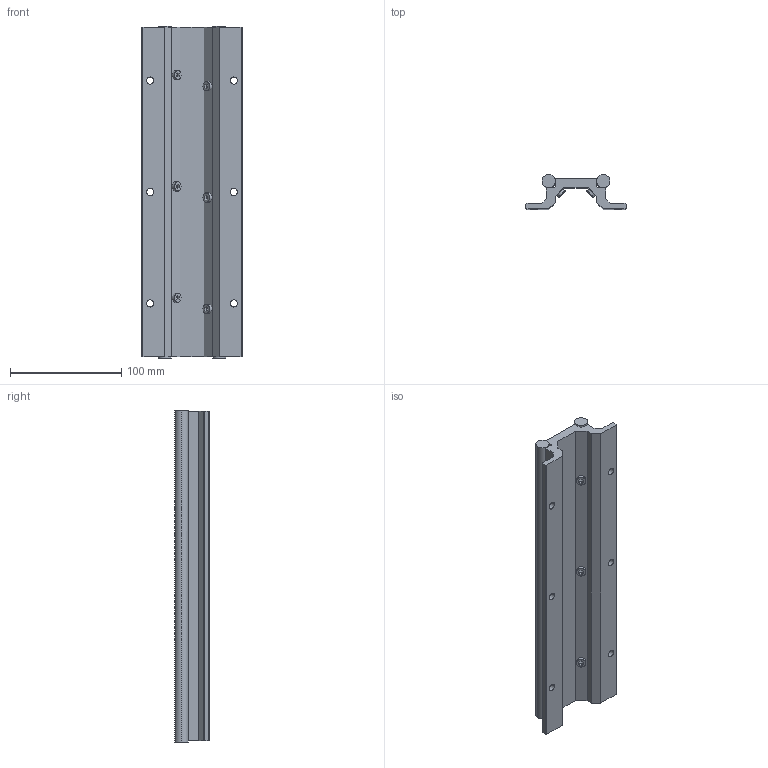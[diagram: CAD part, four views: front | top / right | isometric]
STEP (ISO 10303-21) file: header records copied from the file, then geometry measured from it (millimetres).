
FILE_DESCRIPTION (( 'STEP AP203' ), '1' );
FILE_NAME ('LF 3_-_LF 2 298 mm lang.step', '2005-06-03T06:31:03', ( ' ' ), ( ' ' ), 'SwSTEP 2.0', 'SolidWorks 2004231', '' );
FILE_SCHEMA (( 'CONFIG_CONTROL_DESIGN' ));
Length unit declared in the file: millimetre
Products named in the file (1): LF 3_-_LF 2  298 mm lang
Bounding box: 90 x 31 x 298 mm (x, y, z)
Volume: 310647.5 mm3; surface area: 97504 mm2
Topology: 1 solids, 1 shells, 183 faces, 481 edges, 296 vertices
Faces by surface type: plane 92, cylinder 67, cone 12, torus 12
Entity records: 5728 total; most frequent: CARTESIAN_POINT 1339, ORIENTED_EDGE 938, DIRECTION 835, EDGE_CURVE 469, VERTEX_POINT 296, VECTOR 291, LINE 291, AXIS2_PLACEMENT_3D 272
